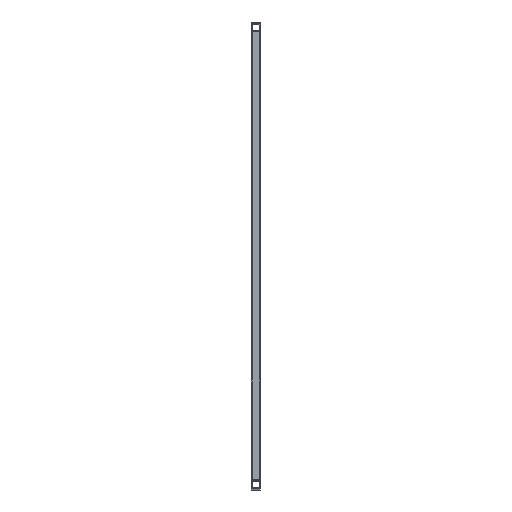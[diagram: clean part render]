
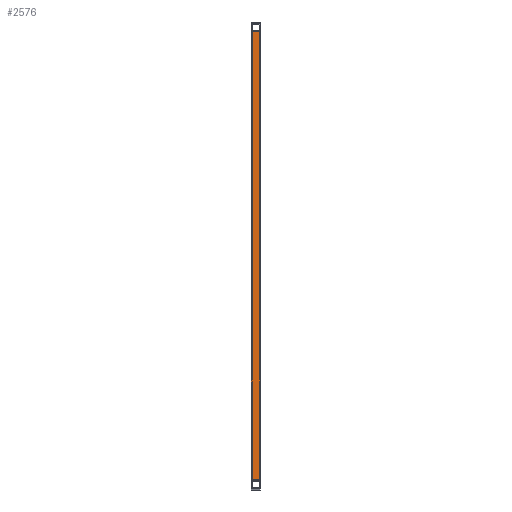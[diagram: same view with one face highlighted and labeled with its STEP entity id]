
A CAD part, top view. The second image highlights one B-rep face of the part: STEP entity #2576.
In plain terms, the highlighted planar face has unit normal (0, 0, 1) as drawn and (0, -1, 0) by its records, which use the part's own axes.
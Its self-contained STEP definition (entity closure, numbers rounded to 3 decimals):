
#90 = DIRECTION ( 'NONE',  ( 0., 0., -1. ) ) ;
#1083 = CARTESIAN_POINT ( 'NONE',  ( -10., -10., 960. ) ) ;
#1343 = CARTESIAN_POINT ( 'NONE',  ( -10., -10., 0. ) ) ;
#1676 = DIRECTION ( 'NONE',  ( 0., 1., 0. ) ) ;
#1845 = CARTESIAN_POINT ( 'NONE',  ( -10., -10., 960. ) ) ;
#1990 = ORIENTED_EDGE ( 'NONE', *, *, #4296, .T. ) ;
#2233 = DIRECTION ( 'NONE',  ( 1., 0., 0. ) ) ;
#2488 = VERTEX_POINT ( 'NONE', #6784 ) ;
#2506 = DIRECTION ( 'NONE',  ( 1., 0., 0. ) ) ;
#2554 = EDGE_LOOP ( 'NONE', ( #3204, #5564, #5726, #1990 ) ) ;
#2571 = CARTESIAN_POINT ( 'NONE',  ( -10., -10., 960. ) ) ;
#2576 = ADVANCED_FACE ( 'NONE', ( #9883 ), #6249, .F. ) ;
#2639 = EDGE_CURVE ( 'NONE', #5561, #2488, #4328, .T. ) ;
#3204 = ORIENTED_EDGE ( 'NONE', *, *, #6864, .T. ) ;
#4296 = EDGE_CURVE ( 'NONE', #5561, #9611, #4546, .T. ) ;
#4328 = LINE ( 'NONE', #1845, #4594 ) ;
#4546 = LINE ( 'NONE', #1083, #4701 ) ;
#4594 = VECTOR ( 'NONE', #2506, 1000. ) ;
#4679 = DIRECTION ( 'NONE',  ( 0., 0., -1. ) ) ;
#4701 = VECTOR ( 'NONE', #90, 1000. ) ;
#4776 = AXIS2_PLACEMENT_3D ( 'NONE', #2571, #1676, #8894 ) ;
#5010 = VECTOR ( 'NONE', #4679, 1000. ) ;
#5561 = VERTEX_POINT ( 'NONE', #6228 ) ;
#5564 = ORIENTED_EDGE ( 'NONE', *, *, #11465, .F. ) ;
#5584 = CARTESIAN_POINT ( 'NONE',  ( -10., -10., 0. ) ) ;
#5726 = ORIENTED_EDGE ( 'NONE', *, *, #2639, .F. ) ;
#6228 = CARTESIAN_POINT ( 'NONE',  ( -10., -10., 960. ) ) ;
#6249 = PLANE ( 'NONE',  #4776 ) ;
#6784 = CARTESIAN_POINT ( 'NONE',  ( 10., -10., 960. ) ) ;
#6864 = EDGE_CURVE ( 'NONE', #9611, #9308, #10151, .T. ) ;
#8200 = LINE ( 'NONE', #10785, #5010 ) ;
#8894 = DIRECTION ( 'NONE',  ( -1., 0., 0. ) ) ;
#9308 = VERTEX_POINT ( 'NONE', #9799 ) ;
#9611 = VERTEX_POINT ( 'NONE', #1343 ) ;
#9799 = CARTESIAN_POINT ( 'NONE',  ( 10., -10., 0. ) ) ;
#9883 = FACE_OUTER_BOUND ( 'NONE', #2554, .T. ) ;
#10151 = LINE ( 'NONE', #5584, #11118 ) ;
#10785 = CARTESIAN_POINT ( 'NONE',  ( 10., -10., 960. ) ) ;
#11118 = VECTOR ( 'NONE', #2233, 1000. ) ;
#11465 = EDGE_CURVE ( 'NONE', #2488, #9308, #8200, .T. ) ;
